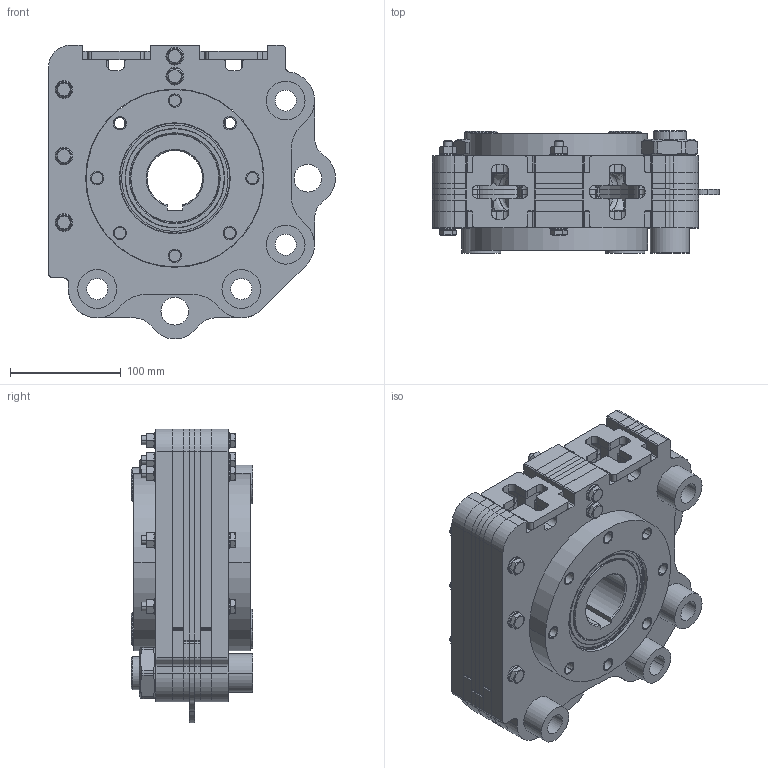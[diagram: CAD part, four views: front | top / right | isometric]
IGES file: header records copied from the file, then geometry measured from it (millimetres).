
Start section: 3D InterOp IGES (v. 2018 1.0.2), Spatial Corp. Copyright (c) 1999-2017.
Global section: file name: 7910670.igs; native system: Spatial Corp.; preprocessor: 3D InterOp ACIS/IGES; author: TraceParts; organization: TraceParts S.A.; date: 20200625.050931; units: millimetre
Bounding box: 259 x 110 x 264.91 mm (x, y, z)
Surface area: 963624.2 mm2 (no closed solid volume)
Topology: 0 solids, 0 shells, 2019 faces, 10474 edges, 10466 vertices
Faces by surface type: revolution 1222, extrusion 725, bspline 72
